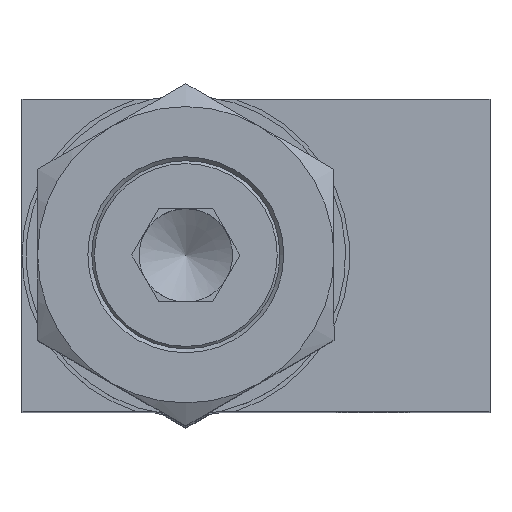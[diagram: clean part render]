
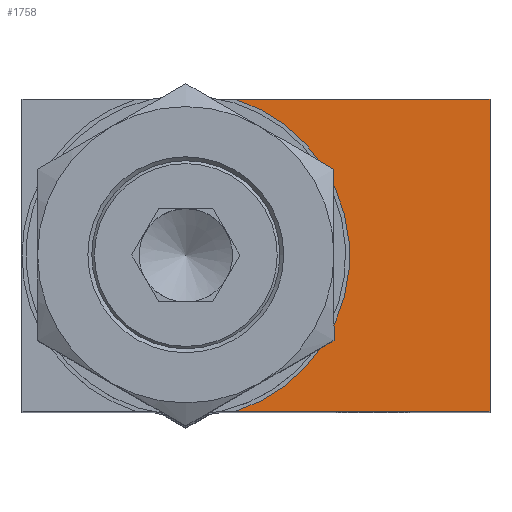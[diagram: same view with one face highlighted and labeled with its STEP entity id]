
A CAD part, top view. The second image highlights one B-rep face of the part: STEP entity #1758.
In plain terms, the highlighted planar face has unit normal (0, 0, 1).
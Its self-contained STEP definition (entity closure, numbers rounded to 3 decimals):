
#66=PLANE('',#1932);
#175=FACE_OUTER_BOUND('',#280,.T.);
#280=EDGE_LOOP('',(#1200,#1201,#1202,#1203));
#402=LINE('',#2765,#496);
#403=LINE('',#2767,#497);
#404=LINE('',#2768,#498);
#496=VECTOR('',#2218,10.);
#497=VECTOR('',#2219,10.);
#498=VECTOR('',#2220,10.);
#580=CIRCLE('',#1910,21.);
#693=VERTEX_POINT('',#2703);
#695=VERTEX_POINT('',#2706);
#715=VERTEX_POINT('',#2764);
#716=VERTEX_POINT('',#2766);
#875=EDGE_CURVE('',#695,#693,#580,.T.);
#904=EDGE_CURVE('',#715,#693,#402,.T.);
#905=EDGE_CURVE('',#715,#716,#403,.T.);
#906=EDGE_CURVE('',#695,#716,#404,.T.);
#1200=ORIENTED_EDGE('',*,*,#875,.T.);
#1201=ORIENTED_EDGE('',*,*,#904,.F.);
#1202=ORIENTED_EDGE('',*,*,#905,.T.);
#1203=ORIENTED_EDGE('',*,*,#906,.F.);
#1758=ADVANCED_FACE('',(#175),#66,.T.);
#1910=AXIS2_PLACEMENT_3D('',#2707,#2157,#2158);
#1932=AXIS2_PLACEMENT_3D('',#2763,#2216,#2217);
#2157=DIRECTION('center_axis',(0.,0.,-1.));
#2158=DIRECTION('ref_axis',(1.,0.,0.));
#2216=DIRECTION('center_axis',(0.,0.,1.));
#2217=DIRECTION('ref_axis',(1.,0.,0.));
#2218=DIRECTION('',(-1.,0.,0.));
#2219=DIRECTION('',(0.,1.,0.));
#2220=DIRECTION('',(1.,0.,0.));
#2703=CARTESIAN_POINT('',(-5.816,-19.42,50.));
#2706=CARTESIAN_POINT('',(-5.816,20.58,50.));
#2707=CARTESIAN_POINT('Origin',(-12.219,0.58,50.));
#2763=CARTESIAN_POINT('Origin',(-33.219,0.58,50.));
#2764=CARTESIAN_POINT('',(26.781,-19.42,50.));
#2765=CARTESIAN_POINT('',(-33.219,-19.42,50.));
#2766=CARTESIAN_POINT('',(26.781,20.58,50.));
#2767=CARTESIAN_POINT('',(26.781,0.58,50.));
#2768=CARTESIAN_POINT('',(-33.219,20.58,50.));
